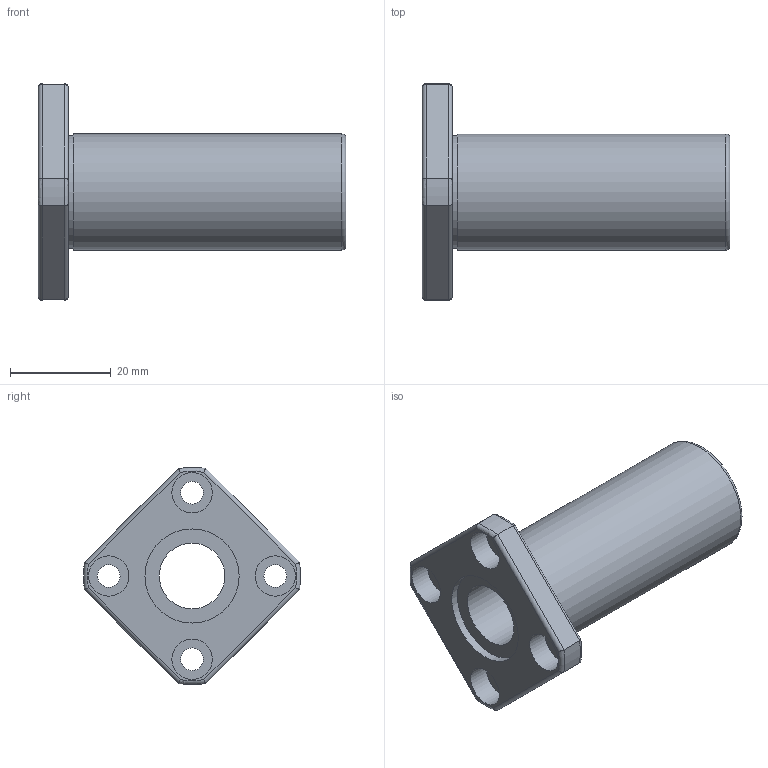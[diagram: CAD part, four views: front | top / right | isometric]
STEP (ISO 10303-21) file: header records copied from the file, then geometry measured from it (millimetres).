
FILE_DESCRIPTION( ( 'Unknown' ), '1' );
FILE_NAME( 'D:/累诀/己绕皋墨飘肺葱胶/11-04-06_档搁累己/01_府聪绢何教/LMK L/LMK 13L.stp', 'Unknown', ( 'Unknown' ), ( 'Unknown' ), 'PSStep 11.0', 'Unknown', ' ' );
FILE_SCHEMA( ( 'AUTOMOTIVE_DESIGN { 1 0 10303 214 1 1 1 1 }' ) );
Length unit declared in the file: millimetre
Products named in the file (1): 1
Bounding box: 61 x 42.98 x 42.96 mm (x, y, z)
Volume: 20026.1 mm3; surface area: 9610.8 mm2
Topology: 1 solids, 1 shells, 48 faces, 105 edges, 67 vertices
Faces by surface type: cylinder 25, plane 14, torus 9
Full cylindrical faces by diameter (mm): 4.5 x4, 8 x4, 13 x1, 18.66 x2, 22.4 x1, 23 x1
Entity records: 1718 total; most frequent: CARTESIAN_POINT 311, DIRECTION 216, ORIENTED_EDGE 174, AXIS2_PLACEMENT_3D 96, EDGE_CURVE 87, EDGE_LOOP 80, VERTEX_POINT 63, FACE_OUTER_BOUND 62
